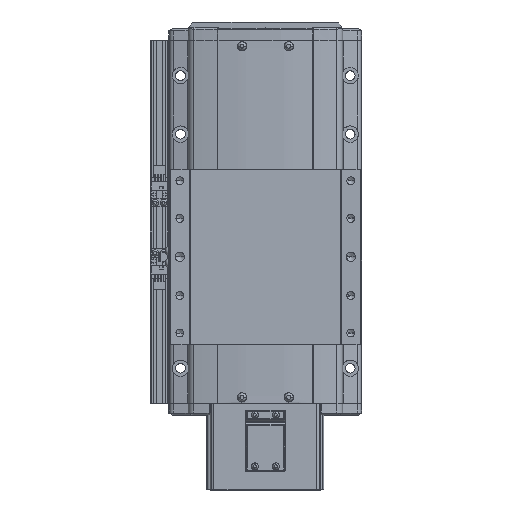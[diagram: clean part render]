
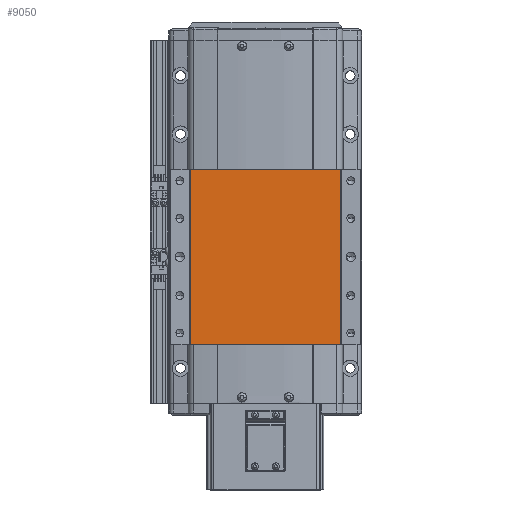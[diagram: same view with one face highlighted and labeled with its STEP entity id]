
A CAD part, top view. The second image highlights one B-rep face of the part: STEP entity #9050.
In plain terms, the highlighted planar face has unit normal (0, 0, 1).
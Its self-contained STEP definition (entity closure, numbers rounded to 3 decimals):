
#9050=ADVANCED_FACE('',(#18690),#18691,.F.);
#18690=FACE_OUTER_BOUND('',#32121,.T.);
#18691=PLANE('',#32122);
#32121=EDGE_LOOP('',(#57221,#57222,#57223,#57224));
#32122=AXIS2_PLACEMENT_3D('',#57225,#57226,#57227);
#57221=ORIENTED_EDGE('',*,*,#68188,.F.);
#57222=ORIENTED_EDGE('',*,*,#74404,.F.);
#57223=ORIENTED_EDGE('',*,*,#74627,.F.);
#57224=ORIENTED_EDGE('',*,*,#67098,.T.);
#57225=CARTESIAN_POINT('',(-600.,347.222,51.5));
#57226=DIRECTION('',(0.,0.,-1.0));
#57227=DIRECTION('',(-1.0,0.,0.));
#67098=EDGE_CURVE('',#80982,#80979,#80983,.T.);
#68188=EDGE_CURVE('',#82782,#80979,#82784,.T.);
#74404=EDGE_CURVE('',#91493,#82782,#91495,.T.);
#74627=EDGE_CURVE('',#80982,#91493,#91754,.T.);
#80979=VERTEX_POINT('',#100395);
#80982=VERTEX_POINT('',#100398);
#80983=LINE('',#100399,#100400);
#82782=VERTEX_POINT('',#102921);
#82784=LINE('',#102923,#102924);
#91493=VERTEX_POINT('',#115551);
#91495=LINE('',#115553,#115554);
#91754=LINE('',#115941,#115942);
#100395=CARTESIAN_POINT('',(-535.624,497.222,51.5));
#100398=CARTESIAN_POINT('',(-535.624,347.222,51.5));
#100399=CARTESIAN_POINT('',(-535.624,347.222,51.5));
#100400=VECTOR('',#121754,10.0);
#102921=CARTESIAN_POINT('',(-664.376,497.222,51.5));
#102923=CARTESIAN_POINT('',(-535.624,497.222,51.5));
#102924=VECTOR('',#123237,10.0);
#115551=CARTESIAN_POINT('',(-664.376,347.222,51.5));
#115553=CARTESIAN_POINT('',(-664.376,347.222,51.5));
#115554=VECTOR('',#130933,10.0);
#115941=CARTESIAN_POINT('',(-535.624,347.222,51.5));
#115942=VECTOR('',#131167,10.0);
#121754=DIRECTION('',(0.,1.0,0.));
#123237=DIRECTION('',(1.0,0.,0.));
#130933=DIRECTION('',(0.,1.0,0.));
#131167=DIRECTION('',(-1.0,0.,0.));
